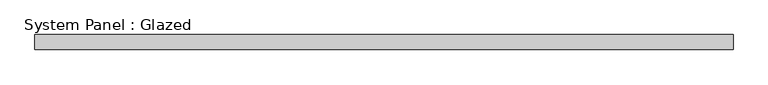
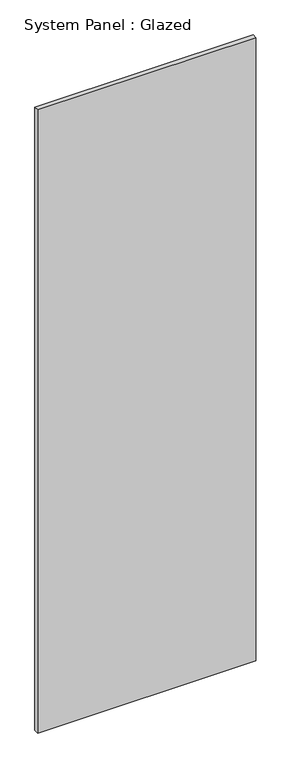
"""IFC4 building model written with IfcOpenShell, lengths in millimetres: plate geometry, System Panel : Glazed."""

from ifc_helpers import new_model, si_unit, origin, origin_with_axes, place, context, project, spatial, polyline, outline, extrude, source, transform, mapped, element, save


def system_panel_glazed_de1ac752(model_context):
    return source(origin(), model_context, "Body", "SweptSolid", [
        extrude(outline(polyline([(580.0, 24.5), (-580.0, 24.5), (-580.0, 49.5), (580.0, 49.5), (580.0, 24.5)])), origin_with_axes(), (0.0, 0.0, 1.0), 3500.0),
    ])


if __name__ == "__main__":
    model = new_model("IFC4")
    model_context = context("Model", 3, world=origin())
    ifc_project = project(units=[si_unit("LENGTHUNIT", "METRE", prefix="MILLI")], contexts=[model_context])
    site = spatial("IfcSite", under=ifc_project)
    building = spatial("IfcBuilding", under=site)
    placement = place(None, origin())
    system_panel_glazed_shape = system_panel_glazed_de1ac752(model_context)
    element("IfcPlate", 1, ObjectType="System Panel : Glazed", at=placement, inside=building, context=model_context, shape_type="MappedRepresentation", body=[
        mapped(system_panel_glazed_shape, transform((0.0, 0.0, 0.0), x_axis=(1.0, 0.0, 0.0), y_axis=(0.0, 1.0, 0.0), z_axis=(0.0, 0.0, 1.0))),
    ])
    save(model, "model.ifc")
